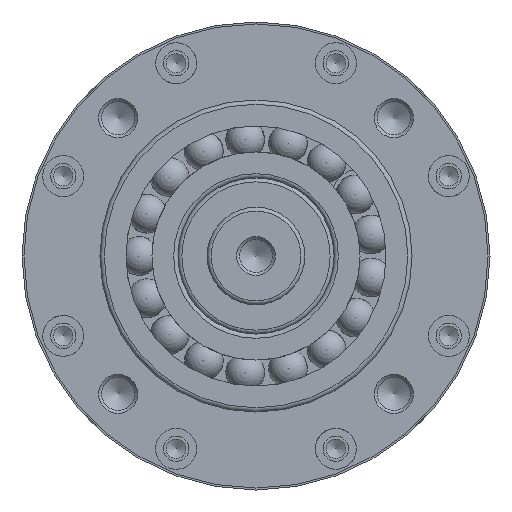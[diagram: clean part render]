
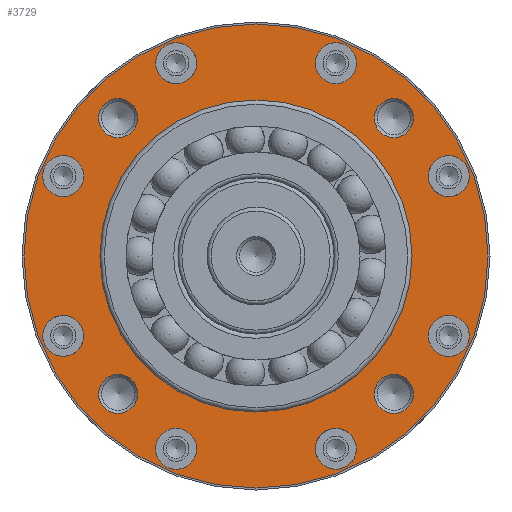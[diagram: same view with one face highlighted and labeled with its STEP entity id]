
A CAD part, left-side view. The second image highlights one B-rep face of the part: STEP entity #3729.
In plain terms, the highlighted planar face has unit normal (-1, 0, 0).
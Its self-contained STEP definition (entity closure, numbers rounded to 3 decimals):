
#3623=PLANE('',#9140);
#3729=ADVANCED_FACE('',(#4268,#4269,#4270,#4271,#4272,#4273,#4274,#4275,
#4276,#4277,#4278,#4279,#4280,#4281),#3623,.F.);
#4268=FACE_BOUND('',#4855,.T.);
#4269=FACE_BOUND('',#4856,.T.);
#4270=FACE_BOUND('',#4857,.T.);
#4271=FACE_BOUND('',#4858,.T.);
#4272=FACE_BOUND('',#4859,.T.);
#4273=FACE_BOUND('',#4860,.T.);
#4274=FACE_BOUND('',#4861,.T.);
#4275=FACE_BOUND('',#4862,.T.);
#4276=FACE_BOUND('',#4863,.T.);
#4277=FACE_BOUND('',#4864,.T.);
#4278=FACE_BOUND('',#4865,.T.);
#4279=FACE_BOUND('',#4866,.T.);
#4280=FACE_BOUND('',#4867,.T.);
#4281=FACE_BOUND('',#4868,.T.);
#4855=EDGE_LOOP('',(#5539));
#4856=EDGE_LOOP('',(#5540));
#4857=EDGE_LOOP('',(#5541));
#4858=EDGE_LOOP('',(#5542));
#4859=EDGE_LOOP('',(#5543));
#4860=EDGE_LOOP('',(#5544));
#4861=EDGE_LOOP('',(#5545));
#4862=EDGE_LOOP('',(#5546));
#4863=EDGE_LOOP('',(#5547));
#4864=EDGE_LOOP('',(#5548));
#4865=EDGE_LOOP('',(#5549));
#4866=EDGE_LOOP('',(#5550));
#4867=EDGE_LOOP('',(#5551));
#4868=EDGE_LOOP('',(#5552));
#5539=ORIENTED_EDGE('',*,*,#7861,.T.);
#5540=ORIENTED_EDGE('',*,*,#7862,.T.);
#5541=ORIENTED_EDGE('',*,*,#7863,.T.);
#5542=ORIENTED_EDGE('',*,*,#7864,.T.);
#5543=ORIENTED_EDGE('',*,*,#7865,.F.);
#5544=ORIENTED_EDGE('',*,*,#7866,.F.);
#5545=ORIENTED_EDGE('',*,*,#7867,.F.);
#5546=ORIENTED_EDGE('',*,*,#7868,.F.);
#5547=ORIENTED_EDGE('',*,*,#7869,.F.);
#5548=ORIENTED_EDGE('',*,*,#7870,.F.);
#5549=ORIENTED_EDGE('',*,*,#7871,.F.);
#5550=ORIENTED_EDGE('',*,*,#7872,.F.);
#5551=ORIENTED_EDGE('',*,*,#7873,.T.);
#5552=ORIENTED_EDGE('',*,*,#7874,.F.);
#7201=VERTEX_POINT('',#11705);
#7202=VERTEX_POINT('',#11707);
#7203=VERTEX_POINT('',#11709);
#7204=VERTEX_POINT('',#11711);
#7205=VERTEX_POINT('',#11713);
#7206=VERTEX_POINT('',#11715);
#7207=VERTEX_POINT('',#11717);
#7208=VERTEX_POINT('',#11719);
#7209=VERTEX_POINT('',#11721);
#7210=VERTEX_POINT('',#11723);
#7211=VERTEX_POINT('',#11725);
#7212=VERTEX_POINT('',#11727);
#7213=VERTEX_POINT('',#11729);
#7214=VERTEX_POINT('',#11731);
#7861=EDGE_CURVE('',#7201,#7201,#8692,.T.);
#7862=EDGE_CURVE('',#7202,#7202,#8693,.T.);
#7863=EDGE_CURVE('',#7203,#7203,#8694,.T.);
#7864=EDGE_CURVE('',#7204,#7204,#8695,.T.);
#7865=EDGE_CURVE('',#7205,#7205,#8696,.T.);
#7866=EDGE_CURVE('',#7206,#7206,#8697,.T.);
#7867=EDGE_CURVE('',#7207,#7207,#8698,.T.);
#7868=EDGE_CURVE('',#7208,#7208,#8699,.T.);
#7869=EDGE_CURVE('',#7209,#7209,#8700,.T.);
#7870=EDGE_CURVE('',#7210,#7210,#8701,.T.);
#7871=EDGE_CURVE('',#7211,#7211,#8702,.T.);
#7872=EDGE_CURVE('',#7212,#7212,#8703,.T.);
#7873=EDGE_CURVE('',#7213,#7213,#8704,.T.);
#7874=EDGE_CURVE('',#7214,#7214,#8705,.T.);
#8692=CIRCLE('',#9126,5.);
#8693=CIRCLE('',#9127,5.);
#8694=CIRCLE('',#9128,5.);
#8695=CIRCLE('',#9129,5.);
#8696=CIRCLE('',#9130,5.25);
#8697=CIRCLE('',#9131,5.25);
#8698=CIRCLE('',#9132,5.25);
#8699=CIRCLE('',#9133,5.25);
#8700=CIRCLE('',#9134,5.25);
#8701=CIRCLE('',#9135,5.25);
#8702=CIRCLE('',#9136,5.25);
#8703=CIRCLE('',#9137,5.25);
#8704=CIRCLE('',#9138,59.5);
#8705=CIRCLE('',#9139,40.);
#9126=AXIS2_PLACEMENT_3D('',#11704,#9971,#9972);
#9127=AXIS2_PLACEMENT_3D('',#11706,#9973,#9974);
#9128=AXIS2_PLACEMENT_3D('',#11708,#9975,#9976);
#9129=AXIS2_PLACEMENT_3D('',#11710,#9977,#9978);
#9130=AXIS2_PLACEMENT_3D('',#11712,#9979,#9980);
#9131=AXIS2_PLACEMENT_3D('',#11714,#9981,#9982);
#9132=AXIS2_PLACEMENT_3D('',#11716,#9983,#9984);
#9133=AXIS2_PLACEMENT_3D('',#11718,#9985,#9986);
#9134=AXIS2_PLACEMENT_3D('',#11720,#9987,#9988);
#9135=AXIS2_PLACEMENT_3D('',#11722,#9989,#9990);
#9136=AXIS2_PLACEMENT_3D('',#11724,#9991,#9992);
#9137=AXIS2_PLACEMENT_3D('',#11726,#9993,#9994);
#9138=AXIS2_PLACEMENT_3D('',#11728,#9995,#9996);
#9139=AXIS2_PLACEMENT_3D('',#11730,#9997,#9998);
#9140=AXIS2_PLACEMENT_3D('',#11732,#9999,#10000);
#9971=DIRECTION('',(1.,0.,0.));
#9972=DIRECTION('',(0.,0.,-1.));
#9973=DIRECTION('',(1.,0.,0.));
#9974=DIRECTION('',(0.,0.,-1.));
#9975=DIRECTION('',(1.,0.,0.));
#9976=DIRECTION('',(0.,0.,-1.));
#9977=DIRECTION('',(1.,0.,0.));
#9978=DIRECTION('',(0.,0.,-1.));
#9979=DIRECTION('',(-1.,0.,0.));
#9980=DIRECTION('',(0.,0.707,0.707));
#9981=DIRECTION('',(-1.,0.,0.));
#9982=DIRECTION('',(0.,1.,0.));
#9983=DIRECTION('',(-1.,0.,0.));
#9984=DIRECTION('',(0.,0.707,-0.707));
#9985=DIRECTION('',(-1.,0.,0.));
#9986=DIRECTION('',(0.,0.,-1.));
#9987=DIRECTION('',(-1.,0.,0.));
#9988=DIRECTION('',(0.,-0.707,-0.707));
#9989=DIRECTION('',(-1.,0.,0.));
#9990=DIRECTION('',(0.,-1.,0.));
#9991=DIRECTION('',(-1.,0.,0.));
#9992=DIRECTION('',(0.,-0.707,0.707));
#9993=DIRECTION('',(-1.,0.,0.));
#9994=DIRECTION('',(0.,0.,1.));
#9995=DIRECTION('',(-1.,0.,0.));
#9996=DIRECTION('',(0.,0.,1.));
#9997=DIRECTION('',(-1.,0.,0.));
#9998=DIRECTION('',(0.,0.,-1.));
#9999=DIRECTION('',(1.,0.,0.));
#10000=DIRECTION('',(0.,0.,-1.));
#11704=CARTESIAN_POINT('',(20.,35.355,-35.355));
#11705=CARTESIAN_POINT('',(20.,35.355,-40.355));
#11706=CARTESIAN_POINT('',(20.,35.355,35.355));
#11707=CARTESIAN_POINT('',(20.,35.355,30.355));
#11708=CARTESIAN_POINT('',(20.,-35.355,-35.355));
#11709=CARTESIAN_POINT('',(20.,-35.355,-40.355));
#11710=CARTESIAN_POINT('',(20.,-35.355,35.355));
#11711=CARTESIAN_POINT('',(20.,-35.355,30.355));
#11712=CARTESIAN_POINT('',(20.,49.428,-20.474));
#11713=CARTESIAN_POINT('',(20.,53.14,-16.761));
#11714=CARTESIAN_POINT('',(20.,20.474,-49.428));
#11715=CARTESIAN_POINT('',(20.,25.724,-49.428));
#11716=CARTESIAN_POINT('',(20.,-20.474,-49.428));
#11717=CARTESIAN_POINT('',(20.,-16.761,-53.14));
#11718=CARTESIAN_POINT('',(20.,-49.428,-20.474));
#11719=CARTESIAN_POINT('',(20.,-49.428,-25.724));
#11720=CARTESIAN_POINT('',(20.,-49.428,20.474));
#11721=CARTESIAN_POINT('',(20.,-53.14,16.761));
#11722=CARTESIAN_POINT('',(20.,-20.474,49.428));
#11723=CARTESIAN_POINT('',(20.,-25.724,49.428));
#11724=CARTESIAN_POINT('',(20.,20.474,49.428));
#11725=CARTESIAN_POINT('',(20.,16.761,53.14));
#11726=CARTESIAN_POINT('',(20.,49.428,20.474));
#11727=CARTESIAN_POINT('',(20.,49.428,25.724));
#11728=CARTESIAN_POINT('',(20.,0.,0.));
#11729=CARTESIAN_POINT('',(20.,0.,59.5));
#11730=CARTESIAN_POINT('',(20.,0.,0.));
#11731=CARTESIAN_POINT('',(20.,0.,-40.));
#11732=CARTESIAN_POINT('',(20.,0.,0.));
